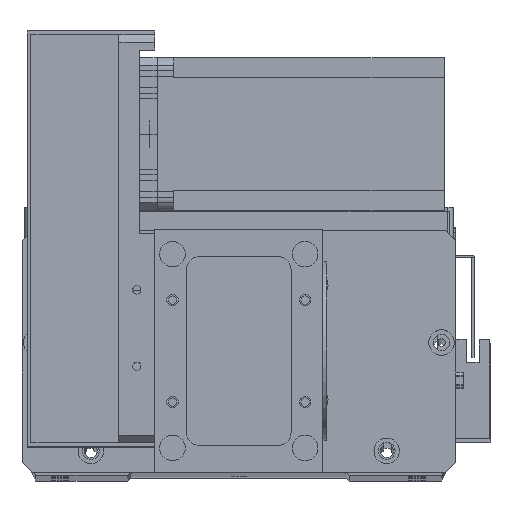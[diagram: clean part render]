
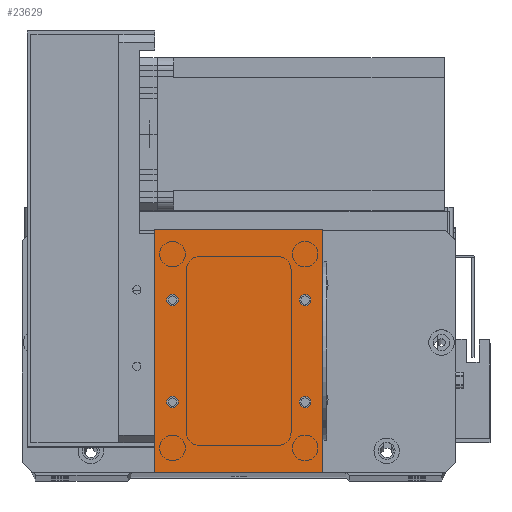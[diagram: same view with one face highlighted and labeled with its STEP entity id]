
A CAD part, top view. The second image highlights one B-rep face of the part: STEP entity #23629.
In plain terms, the highlighted planar face has unit normal (0, 0, 1).
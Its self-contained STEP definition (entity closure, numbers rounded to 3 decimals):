
#443 = DIRECTION ( 'NONE',  ( 1., 0., 0. ) ) ;
#1023 = CIRCLE ( 'NONE', #21169, 2.25 ) ;
#1657 = CARTESIAN_POINT ( 'NONE',  ( 59., 27.5, 2. ) ) ;
#1792 = ORIENTED_EDGE ( 'NONE', *, *, #28840, .F. ) ;
#1937 = CARTESIAN_POINT ( 'NONE',  ( 56.75, 27.5, 2. ) ) ;
#2163 = CARTESIAN_POINT ( 'NONE',  ( 66., 0., 2. ) ) ;
#3332 = CARTESIAN_POINT ( 'NONE',  ( 7., 27.5, 2. ) ) ;
#3383 = CARTESIAN_POINT ( 'NONE',  ( 0., 0., 2. ) ) ;
#3385 = DIRECTION ( 'NONE',  ( 1., 0., 0. ) ) ;
#3710 = CARTESIAN_POINT ( 'NONE',  ( 61.25, 27.5, 2. ) ) ;
#4088 = DIRECTION ( 'NONE',  ( 0., 0., 1. ) ) ;
#4098 = CIRCLE ( 'NONE', #26480, 2.25 ) ;
#4142 = DIRECTION ( 'NONE',  ( 1., 0., 0. ) ) ;
#4261 = CIRCLE ( 'NONE', #6016, 2.25 ) ;
#4722 = FACE_BOUND ( 'NONE', #5258, .T. ) ;
#5142 = ORIENTED_EDGE ( 'NONE', *, *, #28002, .T. ) ;
#5258 = EDGE_LOOP ( 'NONE', ( #28162, #1792 ) ) ;
#5622 = EDGE_CURVE ( 'NONE', #18455, #27145, #27418, .T. ) ;
#5796 = DIRECTION ( 'NONE',  ( 1., 0., 0. ) ) ;
#5836 = DIRECTION ( 'NONE',  ( -1., 0., 0. ) ) ;
#6016 = AXIS2_PLACEMENT_3D ( 'NONE', #28367, #13534, #30886 ) ;
#6090 = CIRCLE ( 'NONE', #15583, 2.25 ) ;
#6328 = CARTESIAN_POINT ( 'NONE',  ( 0., 95., 2. ) ) ;
#6360 = DIRECTION ( 'NONE',  ( 0., 0., 1. ) ) ;
#6654 = VECTOR ( 'NONE', #16957, 1000. ) ;
#6694 = VERTEX_POINT ( 'NONE', #12626 ) ;
#6705 = LINE ( 'NONE', #19880, #14049 ) ;
#7002 = EDGE_CURVE ( 'NONE', #12249, #6694, #23095, .T. ) ;
#7187 = EDGE_LOOP ( 'NONE', ( #21333, #14895 ) ) ;
#8375 = CARTESIAN_POINT ( 'NONE',  ( 0., 0., 2. ) ) ;
#8755 = EDGE_CURVE ( 'NONE', #22679, #30853, #4098, .T. ) ;
#8981 = EDGE_LOOP ( 'NONE', ( #31885, #13185, #5142, #18709 ) ) ;
#9847 = EDGE_CURVE ( 'NONE', #30437, #14006, #14076, .T. ) ;
#10035 = CARTESIAN_POINT ( 'NONE',  ( 59., 27.5, 2. ) ) ;
#10419 = ORIENTED_EDGE ( 'NONE', *, *, #26430, .F. ) ;
#12073 = CARTESIAN_POINT ( 'NONE',  ( 59., 67.5, 2. ) ) ;
#12249 = VERTEX_POINT ( 'NONE', #21462 ) ;
#12420 = AXIS2_PLACEMENT_3D ( 'NONE', #1657, #18969, #4142 ) ;
#12525 = DIRECTION ( 'NONE',  ( 1., 0., 0. ) ) ;
#12626 = CARTESIAN_POINT ( 'NONE',  ( 0., 95., 2. ) ) ;
#12850 = FACE_BOUND ( 'NONE', #7187, .T. ) ;
#13185 = ORIENTED_EDGE ( 'NONE', *, *, #9847, .T. ) ;
#13223 = LINE ( 'NONE', #2163, #6654 ) ;
#13338 = VERTEX_POINT ( 'NONE', #28725 ) ;
#13534 = DIRECTION ( 'NONE',  ( 0., 0., 1. ) ) ;
#14006 = VERTEX_POINT ( 'NONE', #31844 ) ;
#14049 = VECTOR ( 'NONE', #14871, 1000. ) ;
#14076 = LINE ( 'NONE', #25673, #19921 ) ;
#14572 = DIRECTION ( 'NONE',  ( 1., 0., 0. ) ) ;
#14871 = DIRECTION ( 'NONE',  ( 0., -1., 0. ) ) ;
#14895 = ORIENTED_EDGE ( 'NONE', *, *, #27875, .F. ) ;
#15262 = DIRECTION ( 'NONE',  ( 0., 0., 1. ) ) ;
#15444 = EDGE_CURVE ( 'NONE', #27145, #18455, #26669, .T. ) ;
#15574 = PLANE ( 'NONE',  #27359 ) ;
#15583 = AXIS2_PLACEMENT_3D ( 'NONE', #3332, #20632, #5796 ) ;
#16472 = VECTOR ( 'NONE', #23674, 1000. ) ;
#16847 = EDGE_CURVE ( 'NONE', #18501, #22735, #1023, .T. ) ;
#16957 = DIRECTION ( 'NONE',  ( 0., 1., 0. ) ) ;
#17153 = ORIENTED_EDGE ( 'NONE', *, *, #5622, .F. ) ;
#17889 = FACE_BOUND ( 'NONE', #24094, .T. ) ;
#18455 = VERTEX_POINT ( 'NONE', #23297 ) ;
#18501 = VERTEX_POINT ( 'NONE', #3710 ) ;
#18709 = ORIENTED_EDGE ( 'NONE', *, *, #7002, .T. ) ;
#18930 = CARTESIAN_POINT ( 'NONE',  ( 7., 67.5, 2. ) ) ;
#18969 = DIRECTION ( 'NONE',  ( 0., 0., 1. ) ) ;
#19445 = CARTESIAN_POINT ( 'NONE',  ( 9.25, 67.5, 2. ) ) ;
#19790 = CIRCLE ( 'NONE', #12420, 2.25 ) ;
#19880 = CARTESIAN_POINT ( 'NONE',  ( 0., 0., 2. ) ) ;
#19921 = VECTOR ( 'NONE', #3385, 1000. ) ;
#20407 = CIRCLE ( 'NONE', #29764, 2.25 ) ;
#20632 = DIRECTION ( 'NONE',  ( 0., 0., 1. ) ) ;
#20679 = DIRECTION ( 'NONE',  ( 0., 0., -1. ) ) ;
#20942 = ORIENTED_EDGE ( 'NONE', *, *, #15444, .F. ) ;
#20976 = VERTEX_POINT ( 'NONE', #19445 ) ;
#21169 = AXIS2_PLACEMENT_3D ( 'NONE', #10035, #27368, #12525 ) ;
#21214 = CARTESIAN_POINT ( 'NONE',  ( 59., 67.5, 2. ) ) ;
#21333 = ORIENTED_EDGE ( 'NONE', *, *, #24888, .F. ) ;
#21410 = DIRECTION ( 'NONE',  ( 1., 0., 0. ) ) ;
#21462 = CARTESIAN_POINT ( 'NONE',  ( 66., 95., 2. ) ) ;
#22679 = VERTEX_POINT ( 'NONE', #23919 ) ;
#22735 = VERTEX_POINT ( 'NONE', #1937 ) ;
#22901 = EDGE_CURVE ( 'NONE', #6694, #30437, #6705, .T. ) ;
#23095 = LINE ( 'NONE', #6328, #16472 ) ;
#23297 = CARTESIAN_POINT ( 'NONE',  ( 61.25, 67.5, 2. ) ) ;
#23629 = ADVANCED_FACE ( 'NONE', ( #12850, #17889, #4722, #30312, #23727 ), #15574, .F. ) ;
#23674 = DIRECTION ( 'NONE',  ( -1., 0., 0. ) ) ;
#23703 = DIRECTION ( 'NONE',  ( 1., 0., 0. ) ) ;
#23727 = FACE_OUTER_BOUND ( 'NONE', #8981, .T. ) ;
#23919 = CARTESIAN_POINT ( 'NONE',  ( 4.75, 27.5, 2. ) ) ;
#24094 = EDGE_LOOP ( 'NONE', ( #17153, #20942 ) ) ;
#24888 = EDGE_CURVE ( 'NONE', #20976, #13338, #4261, .T. ) ;
#25673 = CARTESIAN_POINT ( 'NONE',  ( 0., 0., 2. ) ) ;
#26430 = EDGE_CURVE ( 'NONE', #30853, #22679, #6090, .T. ) ;
#26480 = AXIS2_PLACEMENT_3D ( 'NONE', #30139, #15262, #443 ) ;
#26520 = AXIS2_PLACEMENT_3D ( 'NONE', #12073, #29420, #14572 ) ;
#26669 = CIRCLE ( 'NONE', #26520, 2.25 ) ;
#26793 = EDGE_LOOP ( 'NONE', ( #10419, #31200 ) ) ;
#27145 = VERTEX_POINT ( 'NONE', #28046 ) ;
#27359 = AXIS2_PLACEMENT_3D ( 'NONE', #3383, #20679, #5836 ) ;
#27368 = DIRECTION ( 'NONE',  ( 0., 0., 1. ) ) ;
#27418 = CIRCLE ( 'NONE', #28045, 2.25 ) ;
#27492 = CARTESIAN_POINT ( 'NONE',  ( 9.25, 27.5, 2. ) ) ;
#27875 = EDGE_CURVE ( 'NONE', #13338, #20976, #20407, .T. ) ;
#28002 = EDGE_CURVE ( 'NONE', #14006, #12249, #13223, .T. ) ;
#28045 = AXIS2_PLACEMENT_3D ( 'NONE', #21214, #6360, #23703 ) ;
#28046 = CARTESIAN_POINT ( 'NONE',  ( 56.75, 67.5, 2. ) ) ;
#28162 = ORIENTED_EDGE ( 'NONE', *, *, #16847, .F. ) ;
#28367 = CARTESIAN_POINT ( 'NONE',  ( 7., 67.5, 2. ) ) ;
#28725 = CARTESIAN_POINT ( 'NONE',  ( 4.75, 67.5, 2. ) ) ;
#28840 = EDGE_CURVE ( 'NONE', #22735, #18501, #19790, .T. ) ;
#29420 = DIRECTION ( 'NONE',  ( 0., 0., 1. ) ) ;
#29764 = AXIS2_PLACEMENT_3D ( 'NONE', #18930, #4088, #21410 ) ;
#30139 = CARTESIAN_POINT ( 'NONE',  ( 7., 27.5, 2. ) ) ;
#30312 = FACE_BOUND ( 'NONE', #26793, .T. ) ;
#30437 = VERTEX_POINT ( 'NONE', #8375 ) ;
#30853 = VERTEX_POINT ( 'NONE', #27492 ) ;
#30886 = DIRECTION ( 'NONE',  ( 1., 0., 0. ) ) ;
#31200 = ORIENTED_EDGE ( 'NONE', *, *, #8755, .F. ) ;
#31844 = CARTESIAN_POINT ( 'NONE',  ( 66., 0., 2. ) ) ;
#31885 = ORIENTED_EDGE ( 'NONE', *, *, #22901, .T. ) ;
